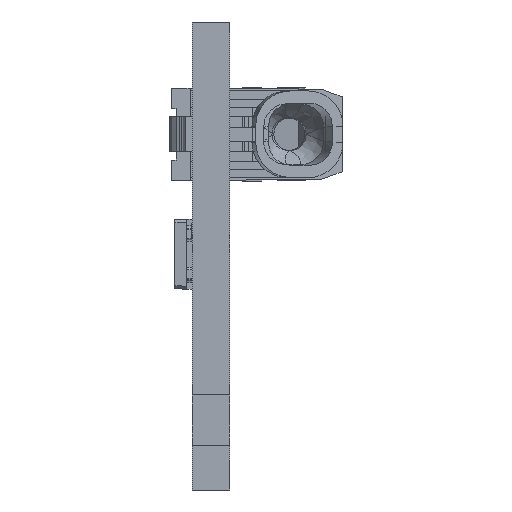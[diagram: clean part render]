
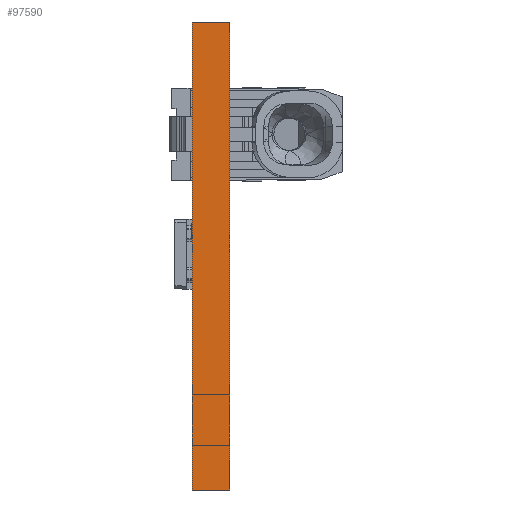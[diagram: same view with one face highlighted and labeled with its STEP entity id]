
A CAD part, left-side view. The second image highlights one B-rep face of the part: STEP entity #97590.
In plain terms, the highlighted planar face has unit normal (-1, 0, 0).
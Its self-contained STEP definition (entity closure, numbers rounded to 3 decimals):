
#9545=DIRECTION('',(0.,0.,1.));
#9546=VECTOR('',#9545,20.);
#9547=CARTESIAN_POINT('',(-282.2,0.,-4.1));
#9548=LINE('',#9547,#9546);
#29249=DIRECTION('',(0.,-1.,0.));
#29250=VECTOR('',#29249,1.6);
#29251=CARTESIAN_POINT('',(-282.2,0.,-4.1));
#29252=LINE('',#29251,#29250);
#29253=DIRECTION('',(0.,-1.,0.));
#29254=VECTOR('',#29253,1.6);
#29255=CARTESIAN_POINT('',(-282.2,0.,15.9));
#29256=LINE('',#29255,#29254);
#29467=DIRECTION('',(0.,0.,1.));
#29468=VECTOR('',#29467,20.);
#29469=CARTESIAN_POINT('',(-282.2,-1.6,-4.1));
#29470=LINE('',#29469,#29468);
#30203=CARTESIAN_POINT('',(-282.2,0.,-4.1));
#30204=VERTEX_POINT('',#30203);
#30205=CARTESIAN_POINT('',(-282.2,0.,15.9));
#30206=VERTEX_POINT('',#30205);
#30419=CARTESIAN_POINT('',(-282.2,-1.6,-4.1));
#30420=VERTEX_POINT('',#30419);
#30421=CARTESIAN_POINT('',(-282.2,-1.6,15.9));
#30422=VERTEX_POINT('',#30421);
#97577=CARTESIAN_POINT('',(-282.2,0.,-4.1));
#97578=DIRECTION('',(-1.,0.,0.));
#97579=DIRECTION('',(0.,0.,1.));
#97580=AXIS2_PLACEMENT_3D('',#97577,#97578,#97579);
#97581=PLANE('',#97580);
#97582=ORIENTED_EDGE('',*,*,#41414,.T.);
#97584=ORIENTED_EDGE('',*,*,#97583,.T.);
#97586=ORIENTED_EDGE('',*,*,#97585,.F.);
#97587=ORIENTED_EDGE('',*,*,#97562,.F.);
#97588=EDGE_LOOP('',(#97582,#97584,#97586,#97587));
#97589=FACE_OUTER_BOUND('',#97588,.F.);
#41414=EDGE_CURVE('',#30204,#30206,#9548,.T.);
#97562=EDGE_CURVE('',#30204,#30420,#29252,.T.);
#97583=EDGE_CURVE('',#30206,#30422,#29256,.T.);
#97585=EDGE_CURVE('',#30420,#30422,#29470,.T.);
#97590=ADVANCED_FACE('',(#97589),#97581,.T.);
